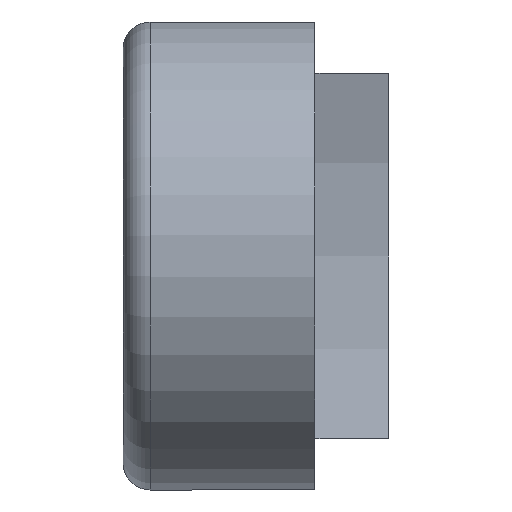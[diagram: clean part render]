
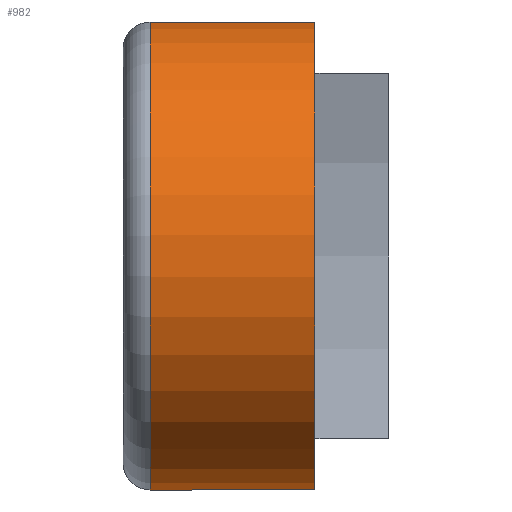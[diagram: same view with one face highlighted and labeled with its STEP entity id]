
A CAD part, left-side view. The second image highlights one B-rep face of the part: STEP entity #982.
In plain terms, the highlighted cylindrical face has radius 12.25 mm (diameter 24.5 mm), a partial arc.
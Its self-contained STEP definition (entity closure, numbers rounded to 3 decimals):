
#232 = VERTEX_POINT('',#233);
#233 = CARTESIAN_POINT('',(1.101,8.6,-12.2));
#307 = VERTEX_POINT('',#308);
#308 = CARTESIAN_POINT('',(1.101,8.6,12.2));
#317 = EDGE_CURVE('',#307,#232,#318,.T.);
#318 = CIRCLE('',#319,12.25);
#319 = AXIS2_PLACEMENT_3D('',#320,#321,#322);
#320 = CARTESIAN_POINT('',(0.,8.6,0.));
#321 = DIRECTION('',(0.,-1.,0.));
#322 = DIRECTION('',(0.09,0.,0.996));
#795 = VERTEX_POINT('',#796);
#796 = CARTESIAN_POINT('',(1.101,0.,
    -12.2));
#802 = EDGE_CURVE('',#795,#232,#803,.T.);
#803 = LINE('',#804,#805);
#804 = CARTESIAN_POINT('',(1.101,0.,
    -12.2));
#805 = VECTOR('',#806,1.);
#806 = DIRECTION('',(0.,1.,0.));
#982 = ADVANCED_FACE('',(#983),#1002,.T.);
#983 = FACE_BOUND('',#984,.T.);
#984 = EDGE_LOOP('',(#985,#993,#994,#995));
#985 = ORIENTED_EDGE('',*,*,#986,.T.);
#986 = EDGE_CURVE('',#987,#307,#989,.T.);
#987 = VERTEX_POINT('',#988);
#988 = CARTESIAN_POINT('',(1.101,0.,
    12.2));
#989 = LINE('',#990,#991);
#990 = CARTESIAN_POINT('',(1.101,0.,
    12.2));
#991 = VECTOR('',#992,1.);
#992 = DIRECTION('',(0.,1.,0.));
#993 = ORIENTED_EDGE('',*,*,#317,.T.);
#994 = ORIENTED_EDGE('',*,*,#802,.F.);
#995 = ORIENTED_EDGE('',*,*,#996,.F.);
#996 = EDGE_CURVE('',#987,#795,#997,.T.);
#997 = CIRCLE('',#998,12.25);
#998 = AXIS2_PLACEMENT_3D('',#999,#1000,#1001);
#999 = CARTESIAN_POINT('',(0.,0.,0.));
#1000 = DIRECTION('',(0.,-1.,0.));
#1001 = DIRECTION('',(1.,0.,0.));
#1002 = CYLINDRICAL_SURFACE('',#1003,12.25);
#1003 = AXIS2_PLACEMENT_3D('',#1004,#1005,#1006);
#1004 = CARTESIAN_POINT('',(0.,0.,0.));
#1005 = DIRECTION('',(0.,-1.,0.));
#1006 = DIRECTION('',(1.,0.,0.));
